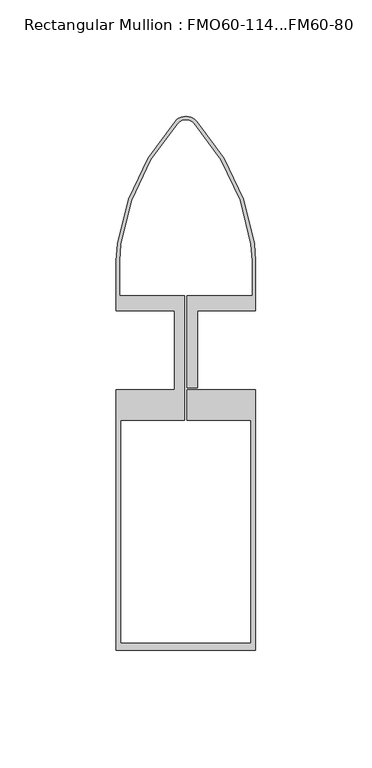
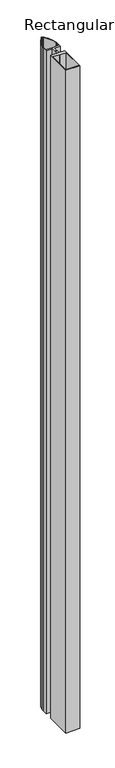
"""IFC4 building model written with IfcOpenShell, lengths in millimetres: member geometry, Rectangular Mullion : FMO60-114...FM60-80."""

from ifc_helpers import new_model, si_unit, frame, origin, place, context, project, spatial, polyline, circle_curve, source, transform, mapped, element, save
from ifc_brep_helpers import plane_surface, cylinder_surface, revolved_surface, advanced_brep


def rectangular_mullion_fmo60_114_fm60_80_10442b32(model_context):
    return source(origin(), model_context, "Body", "AdvancedBrep", [
        advanced_brep(
        [(-29.4612692, 45.8318697, 0.0), (-30.0, 38.5118393, 0.0), (-30.0, 17.0, 0.0), (-4.9995097, 17.0, 0.0), (-4.9995097, -17.0, 0.0), (-30.0, -17.0, 0.0), (-30.0, -128.9990577, 0.0), (30.0, -128.9990577, 0.0), (30.0, -17.0, 0.0), (0.5, -17.0, 0.0), (0.5, -29.9945799, 0.0), (28.0, -29.9945799, 0.0), (28.0, -125.9990577, 0.0), (-28.0, -125.9990577, 0.0), (-28.0, -29.9945799, 0.0), (-0.5, -29.9945799, 0.0), (-0.5, 23.4439081, 0.0), (-28.6, 23.4439081, 0.0), (-28.6, 38.5118393, 0.0), (-28.0754927, 45.6327241, 0.0), (-3.6212321, 97.3854872, 0.0), (0.0, 99.1488206, 0.0), (3.6212321, 97.3854872, 0.0), (28.074631, 45.6385393, 0.0), (28.6, 38.5118393, 0.0), (28.6000412, 23.4439081, 0.0), (0.5, 23.4439081, 0.0), (0.5, -16.2, 0.0), (5.0004903, -16.2, 0.0), (5.0004903, 17.0, 0.0), (30.0, 17.0, 0.0), (30.0, 38.5118393, 0.0), (29.4612692, 45.8318697, 0.0), (4.7233463, 98.2488206, 0.0), (0.0, 100.5488206, 0.0), (-4.7233463, 98.2488206, 0.0), (-29.4612692, 45.8318697, -3000.0), (-4.7233463, 98.2488206, -3000.0), (0.0, 100.5488206, -3000.0), (4.7233463, 98.2488206, -3000.0), (29.4612692, 45.8318697, -3000.0), (30.0, 38.5118393, -3000.0), (30.0, 17.0, -3000.0), (5.0004903, 17.0, -3000.0), (5.0004903, -16.2, -3000.0), (0.5, -16.2, -3000.0), (0.5, 23.4439081, -3000.0), (28.6000412, 23.4439081, -3000.0), (28.6000412, 38.5118393, -3000.0), (28.0754927, 45.6327241, -3000.0), (3.6212321, 97.3854872, -3000.0), (0.0, 99.1488206, -3000.0), (-3.6212321, 97.3854872, -3000.0), (-28.0763537, 45.6269089, -3000.0), (-28.6, 38.5118393, -3000.0), (-28.6, 23.4439081, -3000.0), (-0.5, 23.4439081, -3000.0), (-0.5, -29.9945799, -3000.0), (-28.0, -29.9945799, -3000.0), (-28.0, -125.9990577, -3000.0), (28.0, -125.9990577, -3000.0), (28.0, -29.9945799, -3000.0), (0.5, -29.9945799, -3000.0), (0.5, -17.0, -3000.0), (30.0, -17.0, -3000.0), (30.0, -128.9990577, -3000.0), (-30.0, -128.9990577, -3000.0), (-30.0, -17.0, -3000.0), (-4.9995097, -17.0, -3000.0), (-4.9995097, 17.0, -3000.0), (-30.0, 17.0, -3000.0), (-30.0, 38.5118393, -3000.0)],
        [
            (0, 1, circle_curve(frame((20.0, 38.5118393, 0.0), z_axis=(0.0, 0.0, 1.0), x_axis=(-1.0, 0.0, 0.0)), 50.0)),
            (1, 2),
            (2, 3),
            (3, 4),
            (4, 5),
            (5, 6),
            (6, 7),
            (7, 8),
            (8, 9),
            (9, 10),
            (10, 11),
            (11, 12),
            (12, 13),
            (13, 14),
            (14, 15),
            (15, 16),
            (16, 17),
            (17, 18),
            (18, 19, circle_curve(frame((20.0, 38.5118393, 0.0), z_axis=(0.0, 0.0, -1.0), x_axis=(-0.9892253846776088, 0.146400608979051, 0.0)), 48.6)),
            (19, 20, circle_curve(frame((69.5008187, 31.1798368, 0.0), z_axis=(0.0, 0.0, -1.0), x_axis=(-0.7412956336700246, 0.6711786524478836, 0.0)), 98.6408763)),
            (20, 21, circle_curve(frame((0.0, 94.5488206, 0.0), z_axis=(0.0, 0.0, -1.0), x_axis=(0.0, 1.0, 0.0)), 4.6)),
            (21, 22, circle_curve(frame((0.0, 94.5488206, 0.0), z_axis=(0.0, 0.0, -1.0), x_axis=(0.7872243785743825, 0.6166666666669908, 0.0)), 4.6)),
            (22, 23, circle_curve(frame((-69.5008187, 31.1798368, 0.0), z_axis=(0.0, 0.0, -1.0), x_axis=(0.9892163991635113, 0.14646131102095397, 0.0)), 98.6408763)),
            (23, 24, circle_curve(frame((-20.0, 38.5118393, 0.0), z_axis=(0.0, 0.0, -1.0), x_axis=(1.0, 0.0, 0.0)), 48.6)),
            (24, 25),
            (25, 26),
            (26, 27),
            (27, 28),
            (28, 29),
            (29, 30),
            (30, 31),
            (31, 32, circle_curve(frame((-20.0, 38.5118393, 0.0), z_axis=(0.0, 0.0, 1.0), x_axis=(0.9892253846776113, 0.14640060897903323, 0.0)), 50.0)),
            (32, 33, circle_curve(frame((-69.4612692, 31.1918088, 0.0), z_axis=(0.0, 0.0, 1.0), x_axis=(0.7418461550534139, 0.6705701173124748, 0.0)), 100.0)),
            (33, 34, circle_curve(frame((0.0, 94.5488206, 0.0), z_axis=(0.0, 0.0, 1.0), x_axis=(2.1726324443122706e-12, 1.0, 0.0)), 6.0)),
            (34, 35, circle_curve(frame((0.0, 94.5488206, 0.0), z_axis=(0.0, 0.0, 1.0), x_axis=(-0.787224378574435, 0.6166666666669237, 0.0)), 6.0)),
            (35, 0, circle_curve(frame((69.4612692, 31.1918088, 0.0), z_axis=(0.0, 0.0, 1.0), x_axis=(-0.9892253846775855, 0.14640060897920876, 0.0)), 100.0)),
            (36, 37, circle_curve(frame((69.4612692, 31.1918088, -3000.0), z_axis=(0.0, 0.0, -1.0), x_axis=(-0.9892253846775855, 0.14640060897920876, 0.0)), 100.0)),
            (37, 38, circle_curve(frame((0.0, 94.5488206, -3000.0), z_axis=(0.0, 0.0, -1.0), x_axis=(-0.787224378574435, 0.6166666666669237, 0.0)), 6.0)),
            (38, 39, circle_curve(frame((0.0, 94.5488206, -3000.0), z_axis=(0.0, 0.0, -1.0), x_axis=(2.1726324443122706e-12, 1.0, 0.0)), 6.0)),
            (39, 40, circle_curve(frame((-69.4612692, 31.1918088, -3000.0), z_axis=(0.0, 0.0, -1.0), x_axis=(0.7418461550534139, 0.6705701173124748, 0.0)), 100.0)),
            (40, 41, circle_curve(frame((-20.0, 38.5118393, -3000.0), z_axis=(0.0, 0.0, -1.0), x_axis=(0.9892253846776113, 0.14640060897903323, 0.0)), 50.0)),
            (41, 42),
            (42, 43),
            (43, 44),
            (44, 45),
            (45, 46),
            (46, 47),
            (47, 48),
            (48, 49, circle_curve(frame((-20.0, 38.5118393, -3000.0), z_axis=(0.0, 0.0, 1.0), x_axis=(1.0, 0.0, 0.0)), 48.6)),
            (49, 50, circle_curve(frame((-69.5008187, 31.1798368, -3000.0), z_axis=(0.0, 0.0, 1.0), x_axis=(0.9892163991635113, 0.14646131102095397, 0.0)), 98.6408763)),
            (50, 51, circle_curve(frame((0.0, 94.5488206, -3000.0), z_axis=(0.0, 0.0, 1.0), x_axis=(0.7872243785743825, 0.6166666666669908, 0.0)), 4.6)),
            (51, 52, circle_curve(frame((0.0, 94.5488206, -3000.0), z_axis=(0.0, 0.0, 1.0), x_axis=(0.0, 1.0, 0.0)), 4.6)),
            (52, 53, circle_curve(frame((69.5008187, 31.1798368, -3000.0), z_axis=(0.0, 0.0, 1.0), x_axis=(-0.7412956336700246, 0.6711786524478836, 0.0)), 98.6408763)),
            (53, 54, circle_curve(frame((20.0, 38.5118393, -3000.0), z_axis=(0.0, 0.0, 1.0), x_axis=(-0.9892253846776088, 0.146400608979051, 0.0)), 48.6)),
            (54, 55),
            (55, 56),
            (56, 57),
            (57, 58),
            (58, 59),
            (59, 60),
            (60, 61),
            (61, 62),
            (62, 63),
            (63, 64),
            (64, 65),
            (65, 66),
            (66, 67),
            (67, 68),
            (68, 69),
            (69, 70),
            (70, 71),
            (71, 36, circle_curve(frame((20.0, 38.5118393, -3000.0), z_axis=(0.0, 0.0, -1.0), x_axis=(-1.0, 0.0, 0.0)), 50.0)),
            (0, 36),
            (71, 1),
            (70, 2),
            (69, 3),
            (68, 4),
            (67, 5),
            (66, 6),
            (65, 7),
            (64, 8),
            (63, 9),
            (62, 10),
            (61, 11),
            (60, 12),
            (59, 13),
            (58, 14),
            (57, 15),
            (56, 16),
            (55, 17),
            (54, 18),
            (53, 19),
            (52, 20),
            (51, 21),
            (50, 22),
            (49, 23),
            (48, 24),
            (47, 25),
            (46, 26),
            (45, 27),
            (44, 28),
            (43, 29),
            (42, 30),
            (41, 31),
            (40, 32),
            (39, 33),
            (38, 34),
            (37, 35),
        ],
        [
            plane_surface(frame((0.0, -132.4415225, 0.0), z_axis=(0.0, 0.0, 1.0), x_axis=(-1.0, 0.0, 0.0))),
            plane_surface(frame((0.0, -132.4415225, -3000.0), z_axis=(0.0, 0.0, -1.0), x_axis=(-1.0, 0.0, 0.0))),
            cylinder_surface(frame((20.0, 38.5118393, 0.0), z_axis=(0.0, 0.0, 1.0), x_axis=(-1.0, 0.0, 0.0)), 50.0),
            plane_surface(frame((-30.0, 38.5118393, 0.0), z_axis=(-1.0, 0.0, 0.0), x_axis=(0.0, 0.0, -1.0))),
            plane_surface(frame((-30.0, 17.0, 0.0), z_axis=(0.0, -1.0, 0.0), x_axis=(0.0, 0.0, -1.0))),
            plane_surface(frame((-4.9995097, 17.0, 0.0), z_axis=(-1.0, 0.0, 0.0), x_axis=(0.0, 0.0, -1.0))),
            plane_surface(frame((-4.9995097, -17.0, 0.0), z_axis=(0.0, 1.0, 0.0), x_axis=(0.0, 0.0, -1.0))),
            plane_surface(frame((-30.0, -17.0, 0.0), z_axis=(-1.0, 0.0, 0.0), x_axis=(0.0, 0.0, -1.0))),
            plane_surface(frame((-30.0, -128.9990577, 0.0), z_axis=(0.0, -1.0, 0.0), x_axis=(0.0, 0.0, -1.0))),
            plane_surface(frame((30.0, -128.9990577, 0.0), z_axis=(1.0, 0.0, 0.0), x_axis=(0.0, 0.0, -1.0))),
            plane_surface(frame((30.0, -17.0, 0.0), z_axis=(0.0, 1.0, 0.0), x_axis=(0.0, 0.0, -1.0))),
            plane_surface(frame((0.5, -17.0, 0.0), z_axis=(-1.0, 0.0, 0.0), x_axis=(0.0, 0.0, -1.0))),
            plane_surface(frame((0.5, -29.9945799, 0.0), z_axis=(0.0, -1.0, 0.0), x_axis=(0.0, 0.0, -1.0))),
            plane_surface(frame((28.0, -29.9945799, 0.0), z_axis=(-1.0, 0.0, 0.0), x_axis=(0.0, 0.0, -1.0))),
            plane_surface(frame((28.0, -125.9990577, 0.0), z_axis=(0.0, 1.0, 0.0), x_axis=(0.0, 0.0, -1.0))),
            plane_surface(frame((-28.0, -125.9990577, 0.0), z_axis=(1.0, 0.0, 0.0), x_axis=(0.0, 0.0, -1.0))),
            plane_surface(frame((-28.0, -29.9945799, 0.0), z_axis=(0.0, -1.0, 0.0), x_axis=(0.0, 0.0, -1.0))),
            plane_surface(frame((-0.5, -29.9945799, 0.0), z_axis=(1.0, 0.0, 0.0), x_axis=(0.0, 0.0, -1.0))),
            plane_surface(frame((-0.5, 23.4439081, 0.0), z_axis=(0.0, 1.0, 0.0), x_axis=(0.0, 0.0, -1.0))),
            plane_surface(frame((-28.6, 23.4439081, 0.0), z_axis=(1.0, 0.0, 0.0), x_axis=(0.0, 0.0, -1.0))),
            revolved_surface(polyline([(-28.07635369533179, 45.62690889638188, -3000.0), (-28.07635369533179, 45.62690889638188, 0.0)]), (20.0, 38.5118393, 0.0), (0.0, 0.0, -1.0)),
            revolved_surface(polyline([(-3.6212322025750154, 97.38548723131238, -3000.000000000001), (-3.6212322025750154, 97.38548723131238, 0.0)]), (69.5008187, 31.1798368, 0.0), (0.0, 0.0, -1.0000000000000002)),
            revolved_surface(polyline([(0.0, 99.1488206, -3000.0), (0.0, 99.1488206, 0.0)]), (0.0, 94.5488206, 0.0), (0.0, 0.0, -1.0)),
            revolved_surface(polyline([(3.6212321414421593, 97.38548726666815, -3000.000000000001), (3.6212321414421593, 97.38548726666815, 0.0)]), (0.0, 94.5488206, 0.0), (0.0, 0.0, -1.0000000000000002)),
            revolved_surface(polyline([(28.076353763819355, 45.626908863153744, -3000.0), (28.076353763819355, 45.626908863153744, 0.0)]), (-69.5008187, 31.1798368, 0.0), (0.0, 0.0, -1.0)),
            revolved_surface(polyline([(28.6, 38.5118393, -3000.0), (28.6, 38.5118393, 0.0)]), (-20.0, 38.5118393, 0.0), (0.0, 0.0, -1.0)),
            plane_surface(frame((28.6000412, 38.5118393, 0.0), z_axis=(-1.0, 0.0, 0.0), x_axis=(0.0, 0.0, -1.0))),
            plane_surface(frame((28.6000412, 23.4439081, 0.0), z_axis=(0.0, 1.0, 0.0), x_axis=(0.0, 0.0, -1.0))),
            plane_surface(frame((0.5, 23.4439081, 0.0), z_axis=(-1.0, 0.0, 0.0), x_axis=(0.0, 0.0, -1.0))),
            plane_surface(frame((0.5, -16.2, 0.0), z_axis=(0.0, -1.0, 0.0), x_axis=(0.0, 0.0, -1.0))),
            plane_surface(frame((5.0004903, -16.2, 0.0), z_axis=(1.0, 0.0, 0.0), x_axis=(0.0, 0.0, -1.0))),
            plane_surface(frame((5.0004903, 17.0, 0.0), z_axis=(0.0, -1.0, 0.0), x_axis=(0.0, 0.0, -1.0))),
            plane_surface(frame((30.0, 17.0, 0.0), z_axis=(1.0, 0.0, 0.0), x_axis=(0.0, 0.0, -1.0))),
            cylinder_surface(frame((-20.0, 38.5118393, 0.0), z_axis=(0.0, 0.0, 1.0), x_axis=(0.9892253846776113, 0.14640060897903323, 0.0)), 50.0),
            cylinder_surface(frame((-69.4612692, 31.1918088, 0.0), z_axis=(0.0, 0.0, 1.0), x_axis=(0.7418461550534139, 0.6705701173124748, 0.0)), 100.0),
            cylinder_surface(frame((0.0, 94.5488206, 0.0), z_axis=(0.0, 0.0, 1.0), x_axis=(2.1726324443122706e-12, 1.0, 0.0)), 6.0),
            cylinder_surface(frame((0.0, 94.5488206, 0.0), z_axis=(0.0, 0.0, 1.0), x_axis=(-0.787224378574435, 0.6166666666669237, 0.0)), 6.0),
            cylinder_surface(frame((69.4612692, 31.1918088, 0.0), z_axis=(0.0, 0.0, 1.0000000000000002), x_axis=(-0.9892253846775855, 0.14640060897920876, 0.0)), 100.0),
        ],
        [
            (0, [[1, 2, 3, 4, 5, 6, 7, 8, 9, 10, 11, 12, 13, 14, 15, 16, 17, 18, 19, 20, 21, 22, 23, 24, 25, 26, 27, 28, 29, 30, 31, 32, 33, 34, 35, 36]]),
            (1, [[37, 38, 39, 40, 41, 42, 43, 44, 45, 46, 47, 48, 49, 50, 51, 52, 53, 54, 55, 56, 57, 58, 59, 60, 61, 62, 63, 64, 65, 66, 67, 68, 69, 70, 71, 72]]),
            (2, [[-1, 73, -72, 74]]),
            (3, [[-2, -74, -71, 75]]),
            (4, [[-3, -75, -70, 76]]),
            (5, [[-4, -76, -69, 77]]),
            (6, [[-5, -77, -68, 78]]),
            (7, [[-6, -78, -67, 79]]),
            (8, [[-7, -79, -66, 80]]),
            (9, [[-8, -80, -65, 81]]),
            (10, [[-9, -81, -64, 82]]),
            (11, [[-10, -82, -63, 83]]),
            (12, [[-11, -83, -62, 84]]),
            (13, [[-12, -84, -61, 85]]),
            (14, [[-13, -85, -60, 86]]),
            (15, [[-14, -86, -59, 87]]),
            (16, [[-15, -87, -58, 88]]),
            (17, [[-16, -88, -57, 89]]),
            (18, [[-17, -89, -56, 90]]),
            (19, [[-18, -90, -55, 91]]),
            (20, [[-19, -91, -54, 92]]),
            (21, [[-20, -92, -53, 93]]),
            (22, [[-21, -93, -52, 94]]),
            (23, [[-22, -94, -51, 95]]),
            (24, [[-23, -95, -50, 96]]),
            (25, [[-24, -96, -49, 97]]),
            (26, [[-25, -97, -48, 98]]),
            (27, [[-26, -98, -47, 99]]),
            (28, [[-27, -99, -46, 100]]),
            (29, [[-28, -100, -45, 101]]),
            (30, [[-29, -101, -44, 102]]),
            (31, [[-30, -102, -43, 103]]),
            (32, [[-31, -103, -42, 104]]),
            (33, [[-32, -104, -41, 105]]),
            (34, [[-33, -105, -40, 106]]),
            (35, [[-34, -106, -39, 107]]),
            (36, [[-35, -107, -38, 108]]),
            (37, [[-36, -108, -37, -73]]),
        ],
    ),
    ])


if __name__ == "__main__":
    model = new_model("IFC4")
    model_context = context("Model", 3, world=origin())
    ifc_project = project(units=[si_unit("LENGTHUNIT", "METRE", prefix="MILLI")], contexts=[model_context])
    site = spatial("IfcSite", under=ifc_project)
    building = spatial("IfcBuilding", under=site)
    placement = place(None, origin())
    rectangular_mullion_fmo60_114_fm60_80_shape = rectangular_mullion_fmo60_114_fm60_80_10442b32(model_context)
    element("IfcMember", 1, ObjectType="Rectangular Mullion : FMO60-114...FM60-80", at=placement, inside=building, context=model_context, shape_type="MappedRepresentation", body=[
        mapped(rectangular_mullion_fmo60_114_fm60_80_shape, transform((0.0, 0.0, 0.0), x_axis=(1.0, 0.0, 0.0), y_axis=(0.0, 1.0, 0.0), z_axis=(0.0, 0.0, 1.0))),
    ])
    save(model, "model.ifc")
